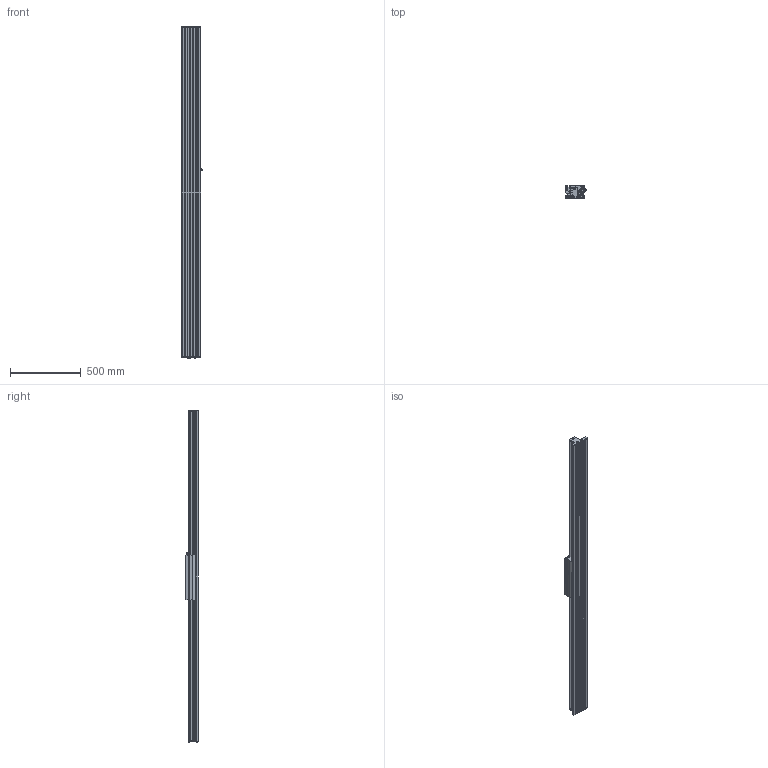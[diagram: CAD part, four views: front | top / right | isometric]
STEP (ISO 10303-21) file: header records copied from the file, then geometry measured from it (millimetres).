
FILE_DESCRIPTION (( 'STEP AP214' ), '1' );
FILE_NAME ('SINADRIVES Linear motor stage MLL20400XS-XX-1-0-ST-00-02340.STEP', '2015-07-06T12:16:49', ( 'Tecnico' ), ( '' ), 'SwSTEP 2.0', 'SolidWorks 2009', '' );
FILE_SCHEMA (( 'AUTOMOTIVE_DESIGN' ));
Length unit declared in the file: millimetre
Products named in the file (7): SINADRIVES PROFILE MLL2XXXX-2324; SINADRIVES CARRIAGE MLL20400XS-1; CARRIAGE MLL20400; Connector power+signal Y-tec 45; SINADRIVES ENDBLOCK MLL2; SINADRIVES ENDBLOCK MLL2-2; SINADRIVES Linear motor stage MLL20400XS-XX-1-0-ST-00-02340
Assembly tree (6 placements, depth 3):
  SINADRIVES Linear motor stage MLL20400XS-XX-1-0-ST-00-02340
    SINADRIVES ENDBLOCK MLL2
    SINADRIVES ENDBLOCK MLL2-2
    SINADRIVES PROFILE MLL2XXXX-2324
    SINADRIVES CARRIAGE MLL20400XS-1
      CARRIAGE MLL20400
      Connector power+signal Y-tec 45
Bounding box: 144.43 x 91 x 2348.8 mm (x, y, z)
Volume: 11097831.3 mm3; surface area: 1906388.1 mm2
Topology: 2 solids, 42 shells, 950 faces, 2640 edges, 1730 vertices
Faces by surface type: plane 445, cylinder 302, bspline 79, cone 70, torus 42, sphere 12
Entity records: 40587 total; most frequent: CARTESIAN_POINT 8656, ORIENTED_EDGE 5024, DIRECTION 4947, EDGE_CURVE 2622, AXIS2_PLACEMENT_3D 1781, VERTEX_POINT 1730, VECTOR 1385, LINE 1385
